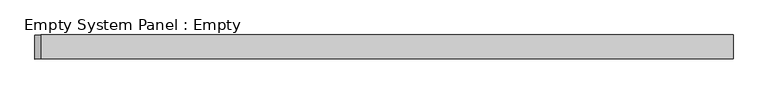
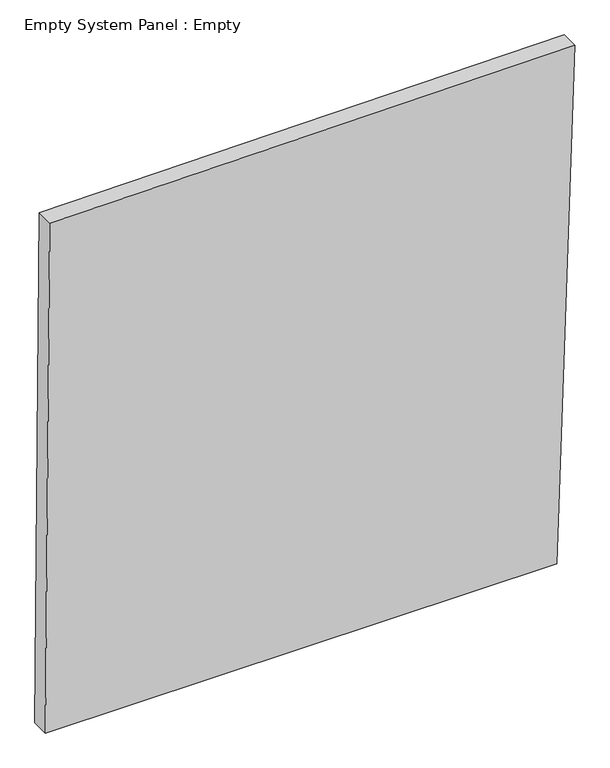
"""IFC4 building model written with IfcOpenShell, lengths in millimetres: plate geometry, Empty System Panel : Empty."""

from ifc_helpers import new_model, si_unit, frame, origin, place, context, project, spatial, polyline, outline, extrude, source, transform, mapped, element, save


def empty_system_panel_empty_3592ea86(model_context):
    return source(origin(), model_context, "Body", "SweptSolid", [
        extrude(outline(polyline([(0.0, -1477.8531458), (0.0, 1377.5659002), (3023.8182252, 1477.8531458), (3001.0656187, -1454.044047), (0.0, -1477.8531458)])), frame((0.0, -50.8, 0.0), z_axis=(0.0, 1.0, 0.0), x_axis=(0.0, 0.0, 1.0)), (0.0, 0.0, 1.0), 101.6),
    ])


if __name__ == "__main__":
    model = new_model("IFC4")
    model_context = context("Model", 3, world=origin())
    ifc_project = project(units=[si_unit("LENGTHUNIT", "METRE", prefix="MILLI")], contexts=[model_context])
    site = spatial("IfcSite", under=ifc_project)
    building = spatial("IfcBuilding", under=site)
    placement = place(None, origin())
    empty_system_panel_empty_shape = empty_system_panel_empty_3592ea86(model_context)
    element("IfcPlate", 1, ObjectType="Empty System Panel : Empty", at=placement, inside=building, context=model_context, shape_type="MappedRepresentation", body=[
        mapped(empty_system_panel_empty_shape, transform((0.0, 0.0, 0.0), x_axis=(1.0, 0.0, 0.0), y_axis=(0.0, 1.0, 0.0), z_axis=(0.0, 0.0, 1.0))),
    ])
    save(model, "model.ifc")
